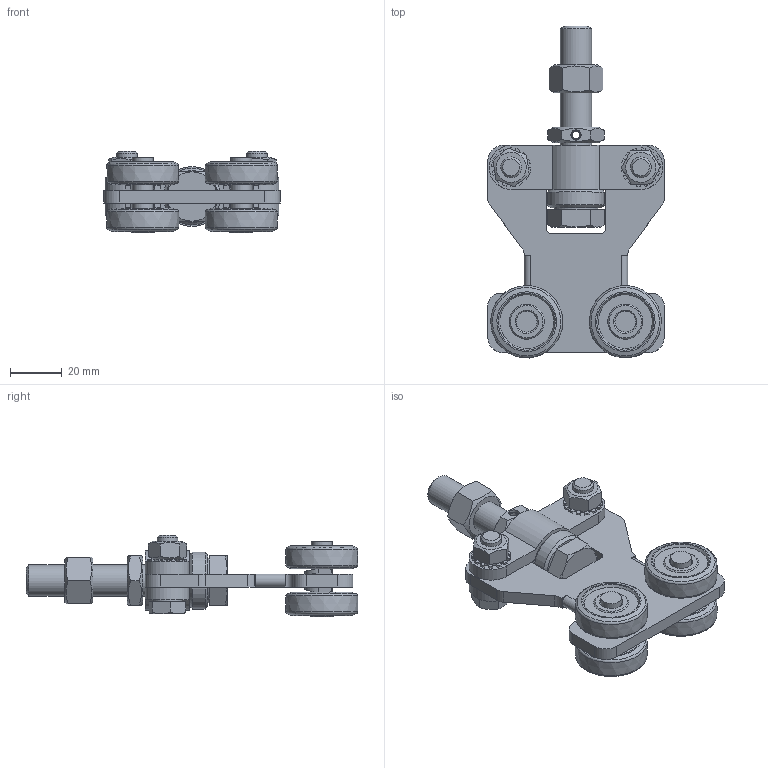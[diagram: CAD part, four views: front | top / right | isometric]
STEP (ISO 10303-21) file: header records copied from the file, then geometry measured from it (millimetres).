
FILE_DESCRIPTION(/* description */ ('Brennteil'),/* implementation_level */ '2;1');
FILE_NAME(/* name */ 'Q:\sge-ma\Produktmanagement-STB\STB\Workspace\stp\010336922.stp',/* time_stamp */ '2016-07-14T07:35:22+02:00',/* author */ ('avschreier'),/* organization */ (''),/* preprocessor_version */ 'ST-DEVELOPER v16.1',/* originating_system */ 'Autodesk Inventor 2016',/* authorisation */ '');
FILE_SCHEMA (('AUTOMOTIVE_DESIGN { 1 0 10303 214 3 1 1 }'));
Length unit declared in the file: millimetre
Products named in the file (14): 000302047; 000302035; 000303235; 000302022; 336290010; 000304011; DIN_EN_ISO_4032-M12_en; DIN_EN_ISO_4032-M8_en; DIN_EN_ISO_4017-M8x25_en; DIN_6798-A_8,4_en; DIN_EN_ISO_4035-M12_en; DIN_EN_ISO_4017-M12x70_en; ISO 13337-4x18_en; 010336922
Assembly tree (24 placements, depth 2):
  010336922
    000302047
    000302035  x2
    000303235  x4
    000302022
    336290010  x4
    000304011  x2
    DIN_EN_ISO_4032-M12_en
    DIN_EN_ISO_4032-M8_en  x2
    DIN_EN_ISO_4017-M8x25_en  x2
    DIN_6798-A_8,4_en  x2
    DIN_EN_ISO_4035-M12_en
    DIN_EN_ISO_4017-M12x70_en
    ISO 13337-4x18_en
Bounding box: 68 x 127.96 x 31.5 mm (x, y, z)
Volume: 70069.4 mm3; surface area: 38848.6 mm2
Topology: 24 solids, 24 shells, 630 faces, 1589 edges, 1031 vertices
Faces by surface type: plane 316, cylinder 196, cone 80, bspline 28, torus 10
Full cylindrical faces by diameter (mm): 4 x3, 6.647 x2, 7.323 x2, 8 x8, 8.4 x2, 8.7 x6, 10 x2, 10.106 x2, 11.053 x1, 11.4 x2, 12 x1, 12.5 x1, 17.2 x1, 22 x1
Entity records: 10598 total; most frequent: CARTESIAN_POINT 2665, DIRECTION 1664, ORIENTED_EDGE 1502, EDGE_CURVE 751, AXIS2_PLACEMENT_3D 639, VERTEX_POINT 520, EDGE_LOOP 413, LINE 386
